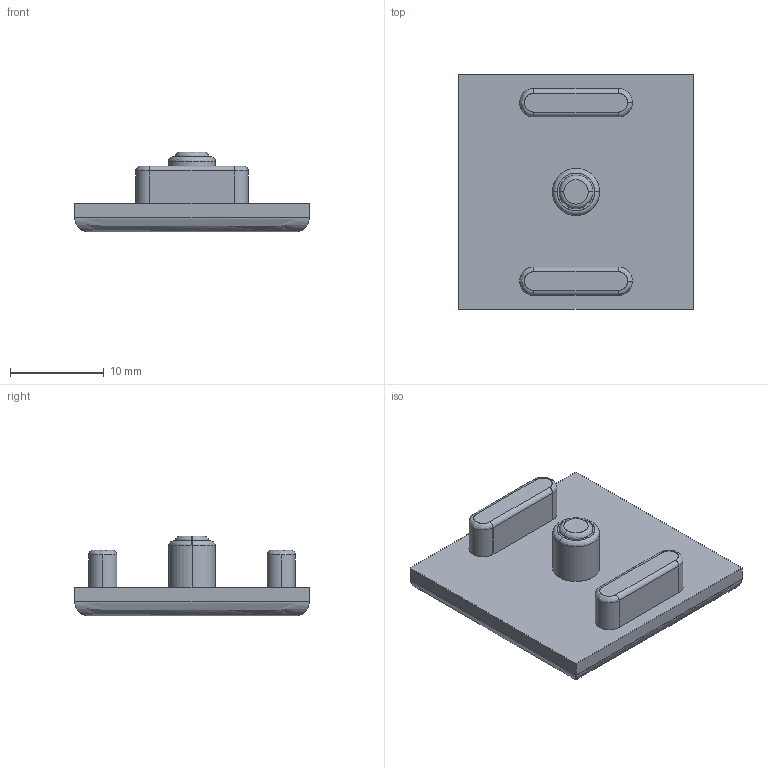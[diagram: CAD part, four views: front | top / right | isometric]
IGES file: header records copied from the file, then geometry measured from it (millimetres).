
Start section: SolidWorks IGES file using analytic representation for surfaces
Global section: file name: C:\Documents and Settings\URETIM3\Desktop\yeni katalog tolgay düzenli\C kataloðu\25x25 plastik profil kapaðý\766 014 025.IGS; native system: SolidWorks 2006 by SolidWorks Corporation; preprocessor: SolidWorks 2006 by SolidWorks Corporation; author: URETIM3; date: 060912.095518; units: millimetre
Bounding box: 25 x 25 x 8.5 mm (x, y, z)
Surface area: 1811.1 mm2 (no closed solid volume)
Topology: 0 solids, 0 shells, 166 faces, 1552 edges, 1552 vertices
Faces by surface type: bspline 150, revolution 16
